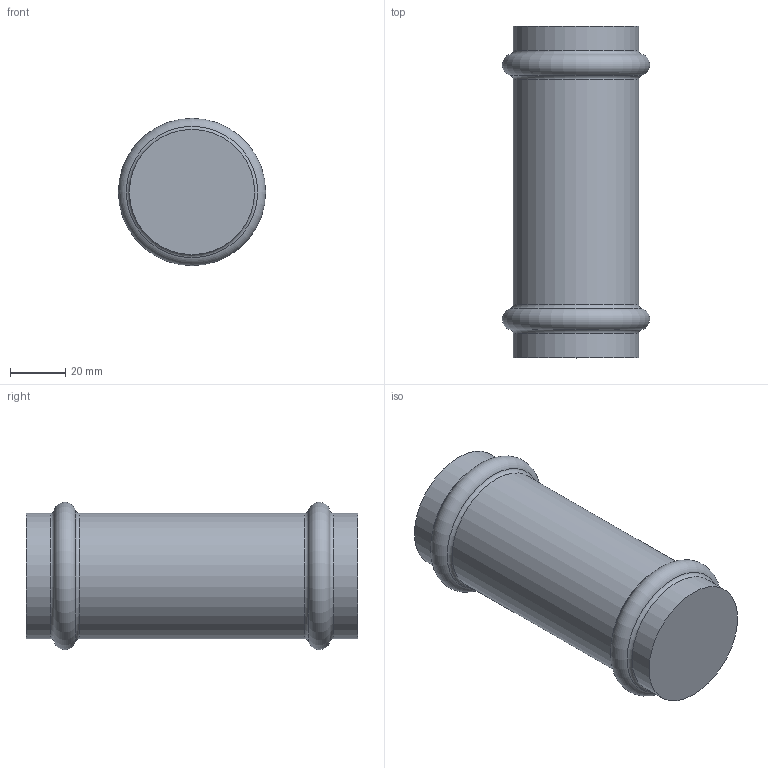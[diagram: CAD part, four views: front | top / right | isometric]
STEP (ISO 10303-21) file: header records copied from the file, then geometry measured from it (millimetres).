
FILE_DESCRIPTION(('STEP AP203'), '1');
FILE_NAME('VTi.904.I.004242', '', ('UNSPECIFIED'), ('UNSPECIFIED'), 'C3D Converter', 'C3D Toolkit', '');
FILE_SCHEMA(('CONFIG_CONTROL_DESIGN'));
Length unit declared in the file: millimetre
Bounding box: 53.28 x 120 x 53.28 mm (x, y, z)
Volume: 201268.6 mm3; surface area: 21747.8 mm2
Topology: 1 solids, 1 shells, 11 faces, 19 edges, 10 vertices
Faces by surface type: torus 6, cylinder 3, plane 2
Full cylindrical faces by diameter (mm): 45.3 x3
Entity records: 254 total; most frequent: DIRECTION 44, CARTESIAN_POINT 32, AXIS2_PLACEMENT_3D 22, EDGE_LOOP 20, ORIENTED_EDGE 20, FACE_OUTER_BOUND 18, ADVANCED_FACE 11, EDGE_CURVE 10
